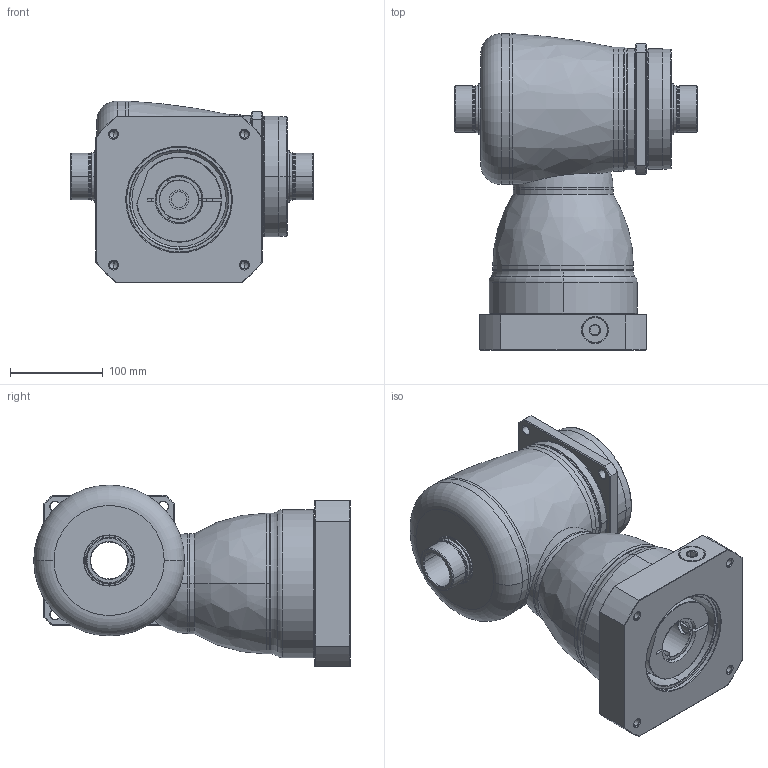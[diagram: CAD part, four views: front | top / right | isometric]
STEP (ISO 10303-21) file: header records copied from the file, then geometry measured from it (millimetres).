
FILE_DESCRIPTION((''),'2;1');
FILE_NAME('KF140_S4_1ST_42-P0409A00101_ASM','2016-07-21T',('d01943'),(''),'PRO/ENGINEER BY PARAMETRIC TECHNOLOGY CORPORATION, 2008410','PRO/ENGINEER BY PARAMETRIC TECHNOLOGY CORPORATION, 2008410','');
FILE_SCHEMA(('CONFIG_CONTROL_DESIGN'));
Length unit declared in the file: millimetre
Products named in the file (11): P1008500002; P1804500001; P0914500001; P1315500001; P1007500001; P1318500501; P0409A00101; P0503A00012; P0912505201; 21711422019; KF140_S4_1ST_42-P0409A00101_ASM
Assembly tree (10 placements, depth 2):
  KF140_S4_1ST_42-P0409A00101_ASM
    P1008500002
    P1804500001
    P0914500001
    P1315500001
    P1007500001
    P1318500501
    P0409A00101
    P0503A00012
    P0912505201
    21711422019
Bounding box: 262 x 342 x 196.5 mm (x, y, z)
Volume: 5594388.7 mm3; surface area: 655192.7 mm2
Topology: 11 solids, 11 shells, 491 faces, 1084 edges, 638 vertices
Faces by surface type: cylinder 166, cone 136, plane 100, torus 66, bspline 21, sphere 2
Entity records: 18453 total; most frequent: CARTESIAN_POINT 7327, DIRECTION 2483, ORIENTED_EDGE 2132, EDGE_CURVE 1066, AXIS2_PLACEMENT_3D 1053, VERTEX_POINT 638, EDGE_LOOP 562, CIRCLE 562
